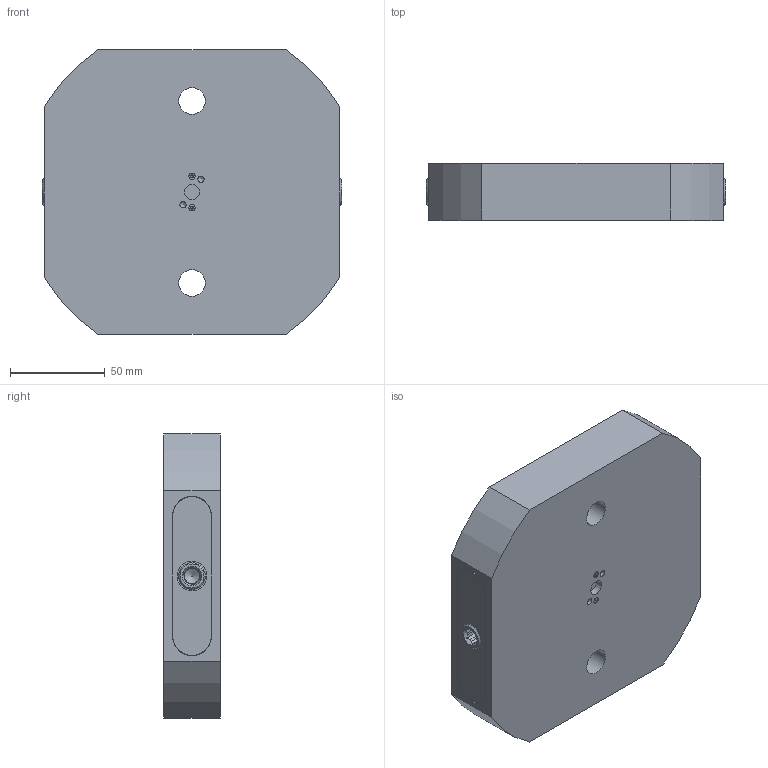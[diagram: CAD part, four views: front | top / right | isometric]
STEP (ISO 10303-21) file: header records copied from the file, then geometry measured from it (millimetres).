
FILE_DESCRIPTION (( 'STEP AP214' ), '1' );
FILE_NAME ('RL96S-6695_WEBSITE.STEP', '2025-08-11T11:25:37', ( '' ), ( '' ), 'SwSTEP 2.0', 'SolidWorks 2025', '' );
FILE_SCHEMA (( 'AUTOMOTIVE_DESIGN' ));
Length unit declared in the file: millimetre
Products named in the file (11): RL96S-6695_WEBSITE; D_HW27X20.DB_WEBSITE; D_RL96-16695S_WEBSITE; D_RL96-ASSY_WEBSITE; 9452K183-Base-O-Ring_WEBSITE; D_SB54_WEBSITE_FINISHED PART; D_RL96-2L_WEBSITE; 9452K121-Truck-O-Ring_WEBSITE; 9750K730_PLASTIC ROUND PLUG_WEBSITE_9750K73; D_RL96-2R_WEBSITE; D_RL96-3_WEBSITE
Assembly tree (17 placements, depth 3):
  RL96S-6695_WEBSITE
    D_RL96-16695S_WEBSITE
    D_RL96-ASSY_WEBSITE
      D_RL96-2L_WEBSITE
      D_RL96-2R_WEBSITE
      D_RL96-3_WEBSITE
      D_HW27X20.DB_WEBSITE  x4
      D_SB54_WEBSITE_FINISHED PART  x2
    9452K183-Base-O-Ring_WEBSITE  x4
    9452K121-Truck-O-Ring_WEBSITE  x2
  9750K730_PLASTIC ROUND PLUG_WEBSITE_9750K73
Bounding box: 158 x 30 x 150 mm (x, y, z)
Volume: 575043.6 mm3; surface area: 124554.9 mm2
Topology: 18 solids, 18 shells, 282 faces, 621 edges, 389 vertices
Faces by surface type: plane 167, cylinder 87, cone 16, torus 10, bspline 2
Full cylindrical faces by diameter (mm): 0.127 x2, 2.5 x2, 3.3 x4, 4 x2, 4.7 x2, 5 x2, 5.182 x2, 8.026 x1, 8.204 x2, 9 x2, 9.525 x2, 10.795 x1, 11.938 x4, 12.573 x4, 13.97 x2, 14 x2, 15.748 x2, 19.05 x2, 19.101 x4, 19.99 x1, 20.015 x4, 20.035 x4, 20.701 x2, 26.977 x4, 26.993 x4, 27.051 x4
Entity records: 9532 total; most frequent: CARTESIAN_POINT 3155, DIRECTION 1094, ORIENTED_EDGE 872, AXIS2_PLACEMENT_3D 445, EDGE_CURVE 436, EDGE_LOOP 356, VERTEX_POINT 312, FACE_OUTER_BOUND 291
